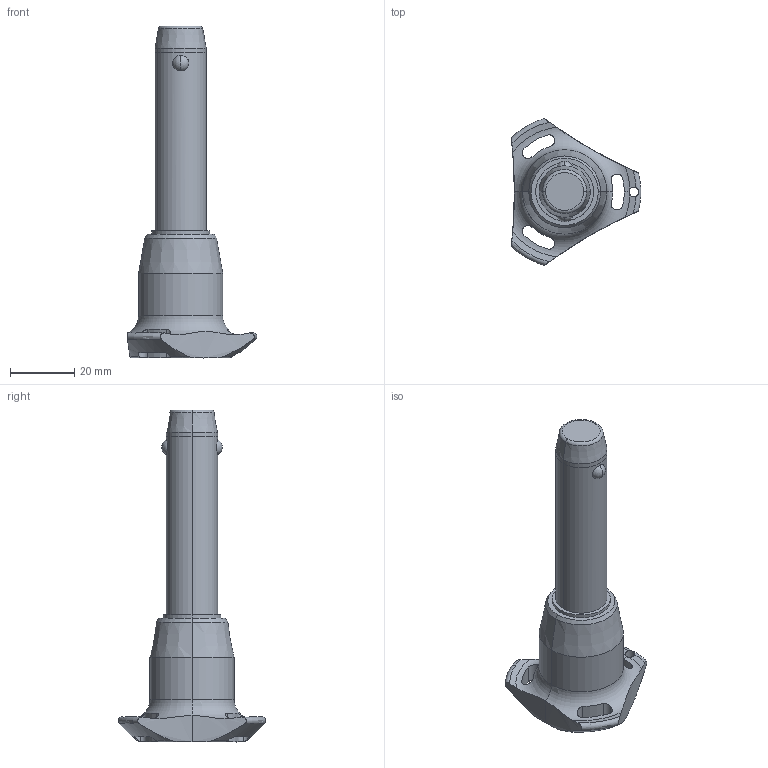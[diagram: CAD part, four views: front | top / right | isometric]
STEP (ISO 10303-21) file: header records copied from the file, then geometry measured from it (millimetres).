
FILE_DESCRIPTION (( 'STEP AP203' ), '1' );
FILE_NAME ('QR1716.M16-050-T.step', '2025-11-13T10:39:33', ( '' ), ( '' ), 'SwSTEP 2.0', 'SolidWorks 2019', '' );
FILE_SCHEMA (( 'CONFIG_CONTROL_DESIGN' ));
Length unit declared in the file: millimetre
Products named in the file (1): QR1716.M16-050-T
Bounding box: 40.5 x 45.88 x 103.7 mm (x, y, z)
Volume: 35149 mm3; surface area: 9172.2 mm2
Topology: 1 solids, 1 shells, 68 faces, 184 edges, 117 vertices
Faces by surface type: cylinder 32, cone 14, torus 11, sphere 6, plane 5
Entity records: 2950 total; most frequent: CARTESIAN_POINT 1194, ORIENTED_EDGE 368, DIRECTION 345, EDGE_CURVE 184, AXIS2_PLACEMENT_3D 154, VERTEX_POINT 117, CIRCLE 85, EDGE_LOOP 75
